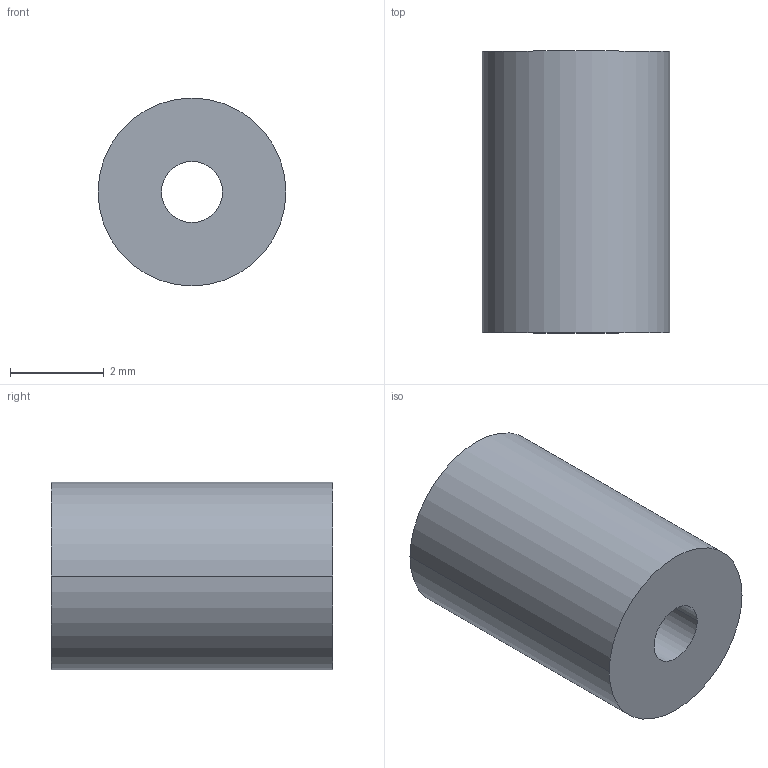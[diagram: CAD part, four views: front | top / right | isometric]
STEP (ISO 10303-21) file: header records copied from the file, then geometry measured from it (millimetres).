
FILE_DESCRIPTION (( 'STEP AP203' ), '1' );
FILE_NAME ('30800.WPP4A1.3.step', '2019-01-23T22:14:15', ( '' ), ( '' ), 'SwSTEP 2.0', 'SolidWorks 2017', '' );
FILE_SCHEMA (( 'CONFIG_CONTROL_DESIGN' ));
Length unit declared in the file: millimetre
Products named in the file (1): 30800.WPP4A1.3
Bounding box: 4 x 6 x 4 mm (x, y, z)
Volume: 66.3 mm3; surface area: 121.1 mm2
Topology: 1 solids, 1 shells, 8 faces, 16 edges, 10 vertices
Faces by surface type: cylinder 4, torus 2, plane 2
Entity records: 297 total; most frequent: DIRECTION 46, CARTESIAN_POINT 35, ORIENTED_EDGE 32, AXIS2_PLACEMENT_3D 21, EDGE_CURVE 16, CIRCLE 12, VERTEX_POINT 10, EDGE_LOOP 10
